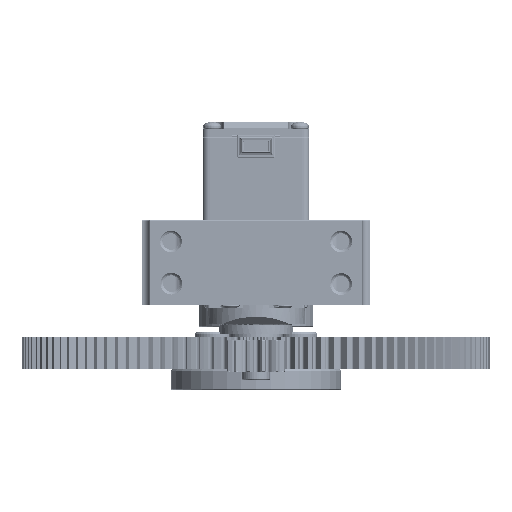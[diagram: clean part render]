
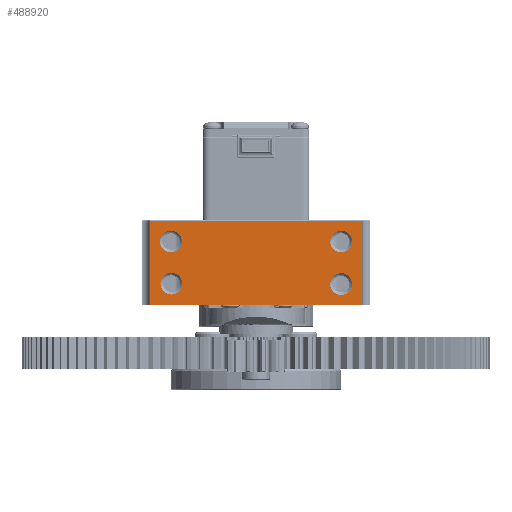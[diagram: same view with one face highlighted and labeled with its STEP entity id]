
A CAD part, left-side view. The second image highlights one B-rep face of the part: STEP entity #488920.
In plain terms, the highlighted planar face has unit normal (-1, 0, 0).
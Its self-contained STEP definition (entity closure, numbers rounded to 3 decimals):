
#12353 = ORIENTED_EDGE ( 'NONE', *, *, #186034, .F. ) ;
#14013 = CARTESIAN_POINT ( 'NONE',  ( -46.25, -20., -15.875 ) ) ;
#31295 = EDGE_LOOP ( 'NONE', ( #241401, #435840 ) ) ;
#37078 = DIRECTION ( 'NONE',  ( 0., 1., 0. ) ) ;
#42604 = EDGE_CURVE ( 'NONE', #770750, #278410, #805609, .T. ) ;
#43224 = DIRECTION ( 'NONE',  ( -1., 0., 0. ) ) ;
#47641 = VECTOR ( 'NONE', #108809, 1000. ) ;
#48350 = EDGE_LOOP ( 'NONE', ( #268015, #587220 ) ) ;
#48422 = EDGE_LOOP ( 'NONE', ( #828006, #255594, #330337, #225825 ) ) ;
#49600 = AXIS2_PLACEMENT_3D ( 'NONE', #730735, #332210, #858924 ) ;
#60286 = AXIS2_PLACEMENT_3D ( 'NONE', #162155, #761634, #363025 ) ;
#60845 = FACE_BOUND ( 'NONE', #282483, .T. ) ;
#71042 = EDGE_CURVE ( 'NONE', #470147, #281114, #489787, .T. ) ;
#80953 = DIRECTION ( 'NONE',  ( 0., -1., 0. ) ) ;
#91241 = DIRECTION ( 'NONE',  ( -1., 0., 0. ) ) ;
#94151 = CARTESIAN_POINT ( 'NONE',  ( -46.25, -16., -4. ) ) ;
#96392 = DIRECTION ( 'NONE',  ( 0., 0., 1. ) ) ;
#100226 = CARTESIAN_POINT ( 'NONE',  ( -46.25, 19.875, 16.151 ) ) ;
#101135 = AXIS2_PLACEMENT_3D ( 'NONE', #235100, #633772, #37078 ) ;
#108809 = DIRECTION ( 'NONE',  ( 0., 0., -1. ) ) ;
#112674 = AXIS2_PLACEMENT_3D ( 'NONE', #827685, #429155, #164225 ) ;
#123927 = VECTOR ( 'NONE', #80953, 1000. ) ;
#134356 = CARTESIAN_POINT ( 'NONE',  ( -46.25, 16., -4. ) ) ;
#139486 = EDGE_CURVE ( 'NONE', #281114, #794302, #224805, .T. ) ;
#150711 = CARTESIAN_POINT ( 'NONE',  ( -46.25, 18.05, -4. ) ) ;
#153768 = VERTEX_POINT ( 'NONE', #519294 ) ;
#162155 = CARTESIAN_POINT ( 'NONE',  ( -46.25, 16., -4. ) ) ;
#163365 = ORIENTED_EDGE ( 'NONE', *, *, #637226, .F. ) ;
#164225 = DIRECTION ( 'NONE',  ( 0., 1., 0. ) ) ;
#164436 = CARTESIAN_POINT ( 'NONE',  ( -46.25, 0., 16.151 ) ) ;
#164839 = CARTESIAN_POINT ( 'NONE',  ( -46.25, -18.05, -4. ) ) ;
#172345 = AXIS2_PLACEMENT_3D ( 'NONE', #134356, #256869, #658331 ) ;
#178211 = CIRCLE ( 'NONE', #820962, 2.05 ) ;
#180908 = CARTESIAN_POINT ( 'NONE',  ( -46.25, -19.875, 16.151 ) ) ;
#183483 = CIRCLE ( 'NONE', #60286, 2.05 ) ;
#186034 = EDGE_CURVE ( 'NONE', #218207, #687355, #292006, .T. ) ;
#186981 = CARTESIAN_POINT ( 'NONE',  ( -46.25, 13.861, -11.91 ) ) ;
#202451 = CIRCLE ( 'NONE', #49600, 2.05 ) ;
#218207 = VERTEX_POINT ( 'NONE', #164839 ) ;
#224805 = LINE ( 'NONE', #100226, #47641 ) ;
#225825 = ORIENTED_EDGE ( 'NONE', *, *, #491649, .T. ) ;
#235100 = CARTESIAN_POINT ( 'NONE',  ( -46.25, -16., -12. ) ) ;
#237889 = FACE_OUTER_BOUND ( 'NONE', #48422, .T. ) ;
#241199 = AXIS2_PLACEMENT_3D ( 'NONE', #164436, #298375, #763853 ) ;
#241401 = ORIENTED_EDGE ( 'NONE', *, *, #372252, .F. ) ;
#255594 = ORIENTED_EDGE ( 'NONE', *, *, #139486, .T. ) ;
#256869 = DIRECTION ( 'NONE',  ( -1., 0., 0. ) ) ;
#268015 = ORIENTED_EDGE ( 'NONE', *, *, #522166, .F. ) ;
#268946 = FACE_BOUND ( 'NONE', #48350, .T. ) ;
#275369 = VERTEX_POINT ( 'NONE', #186981 ) ;
#278410 = VERTEX_POINT ( 'NONE', #723681 ) ;
#281114 = VERTEX_POINT ( 'NONE', #723373 ) ;
#282483 = EDGE_LOOP ( 'NONE', ( #396404, #841469 ) ) ;
#292006 = CIRCLE ( 'NONE', #470620, 2.05 ) ;
#294453 = VERTEX_POINT ( 'NONE', #657142 ) ;
#298375 = DIRECTION ( 'NONE',  ( 1., 0., 0. ) ) ;
#327612 = CARTESIAN_POINT ( 'NONE',  ( -46.25, -13.95, -4. ) ) ;
#330337 = ORIENTED_EDGE ( 'NONE', *, *, #734796, .T. ) ;
#331534 = FACE_BOUND ( 'NONE', #31295, .T. ) ;
#332210 = DIRECTION ( 'NONE',  ( -1., 0., 0. ) ) ;
#337167 = LINE ( 'NONE', #180908, #764493 ) ;
#363025 = DIRECTION ( 'NONE',  ( 0., -1., 0. ) ) ;
#368628 = CARTESIAN_POINT ( 'NONE',  ( -46.25, -18.05, -12. ) ) ;
#372252 = EDGE_CURVE ( 'NONE', #488564, #478656, #662804, .T. ) ;
#375301 = EDGE_CURVE ( 'NONE', #478656, #488564, #631113, .T. ) ;
#396404 = ORIENTED_EDGE ( 'NONE', *, *, #784438, .F. ) ;
#396553 = CARTESIAN_POINT ( 'NONE',  ( -46.25, 20., -0.125 ) ) ;
#420738 = CARTESIAN_POINT ( 'NONE',  ( -46.25, -13.95, -12. ) ) ;
#429155 = DIRECTION ( 'NONE',  ( -1., 0., 0. ) ) ;
#435840 = ORIENTED_EDGE ( 'NONE', *, *, #375301, .F. ) ;
#441899 = DIRECTION ( 'NONE',  ( 0., 1., 0. ) ) ;
#444771 = CARTESIAN_POINT ( 'NONE',  ( -46.25, 15.911, -11.91 ) ) ;
#470147 = VERTEX_POINT ( 'NONE', #516465 ) ;
#470620 = AXIS2_PLACEMENT_3D ( 'NONE', #94151, #91241, #556947 ) ;
#478656 = VERTEX_POINT ( 'NONE', #368628 ) ;
#488564 = VERTEX_POINT ( 'NONE', #420738 ) ;
#488920 = ADVANCED_FACE ( 'NONE', ( #237889, #60845, #571090, #331534, #268946 ), #501961, .F. ) ;
#489787 = LINE ( 'NONE', #396553, #625186 ) ;
#491649 = EDGE_CURVE ( 'NONE', #153768, #470147, #337167, .T. ) ;
#501961 = PLANE ( 'NONE',  #241199 ) ;
#516465 = CARTESIAN_POINT ( 'NONE',  ( -46.25, -19.875, -0.125 ) ) ;
#519294 = CARTESIAN_POINT ( 'NONE',  ( -46.25, -19.875, -15.875 ) ) ;
#522166 = EDGE_CURVE ( 'NONE', #294453, #275369, #691871, .T. ) ;
#539836 = DIRECTION ( 'NONE',  ( 0., 1., 0. ) ) ;
#548392 = CARTESIAN_POINT ( 'NONE',  ( -46.25, 15.911, -11.91 ) ) ;
#556947 = DIRECTION ( 'NONE',  ( 0., 1., 0. ) ) ;
#571090 = FACE_BOUND ( 'NONE', #670560, .T. ) ;
#584502 = CARTESIAN_POINT ( 'NONE',  ( -46.25, 19.875, -15.875 ) ) ;
#587220 = ORIENTED_EDGE ( 'NONE', *, *, #616503, .F. ) ;
#616503 = EDGE_CURVE ( 'NONE', #275369, #294453, #178211, .T. ) ;
#625186 = VECTOR ( 'NONE', #789354, 1000. ) ;
#631113 = CIRCLE ( 'NONE', #101135, 2.05 ) ;
#633772 = DIRECTION ( 'NONE',  ( -1., 0., 0. ) ) ;
#637226 = EDGE_CURVE ( 'NONE', #687355, #218207, #202451, .T. ) ;
#657142 = CARTESIAN_POINT ( 'NONE',  ( -46.25, 17.961, -11.91 ) ) ;
#658331 = DIRECTION ( 'NONE',  ( 0., -1., 0. ) ) ;
#662804 = CIRCLE ( 'NONE', #112674, 2.05 ) ;
#670560 = EDGE_LOOP ( 'NONE', ( #163365, #12353 ) ) ;
#676512 = DIRECTION ( 'NONE',  ( -1., 0., 0. ) ) ;
#687355 = VERTEX_POINT ( 'NONE', #327612 ) ;
#691871 = CIRCLE ( 'NONE', #777796, 2.05 ) ;
#723373 = CARTESIAN_POINT ( 'NONE',  ( -46.25, 19.875, -0.125 ) ) ;
#723681 = CARTESIAN_POINT ( 'NONE',  ( -46.25, 13.95, -4. ) ) ;
#730735 = CARTESIAN_POINT ( 'NONE',  ( -46.25, -16., -4. ) ) ;
#734796 = EDGE_CURVE ( 'NONE', #794302, #153768, #821988, .T. ) ;
#761634 = DIRECTION ( 'NONE',  ( -1., 0., 0. ) ) ;
#763853 = DIRECTION ( 'NONE',  ( 0., -1., 0. ) ) ;
#764493 = VECTOR ( 'NONE', #96392, 1000. ) ;
#770750 = VERTEX_POINT ( 'NONE', #150711 ) ;
#777796 = AXIS2_PLACEMENT_3D ( 'NONE', #548392, #676512, #539836 ) ;
#784438 = EDGE_CURVE ( 'NONE', #278410, #770750, #183483, .T. ) ;
#789354 = DIRECTION ( 'NONE',  ( 0., 1., 0. ) ) ;
#794302 = VERTEX_POINT ( 'NONE', #584502 ) ;
#805609 = CIRCLE ( 'NONE', #172345, 2.05 ) ;
#820962 = AXIS2_PLACEMENT_3D ( 'NONE', #444771, #43224, #441899 ) ;
#821988 = LINE ( 'NONE', #14013, #123927 ) ;
#827685 = CARTESIAN_POINT ( 'NONE',  ( -46.25, -16., -12. ) ) ;
#828006 = ORIENTED_EDGE ( 'NONE', *, *, #71042, .T. ) ;
#841469 = ORIENTED_EDGE ( 'NONE', *, *, #42604, .F. ) ;
#858924 = DIRECTION ( 'NONE',  ( 0., 1., 0. ) ) ;
